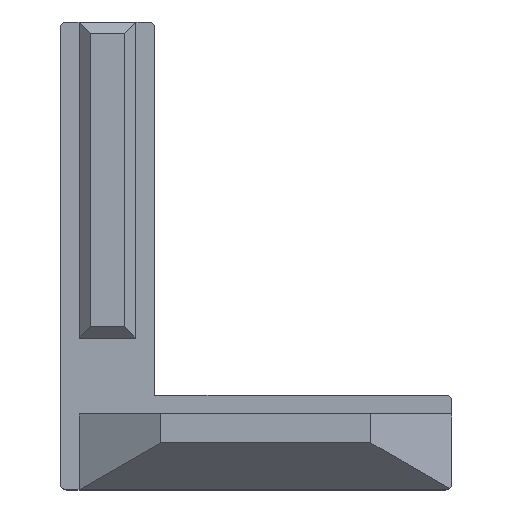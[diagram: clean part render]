
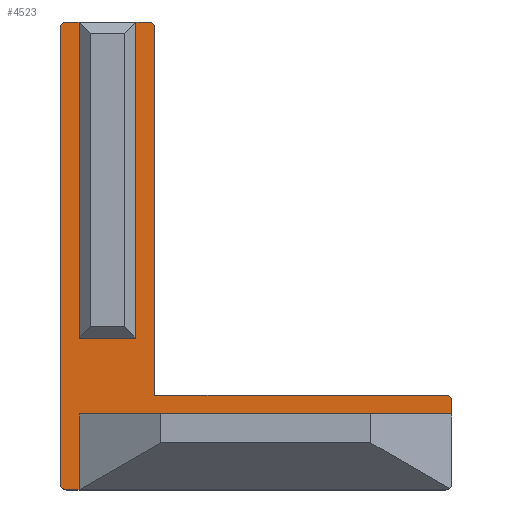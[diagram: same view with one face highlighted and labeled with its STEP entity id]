
A CAD part, top view. The second image highlights one B-rep face of the part: STEP entity #4523.
In plain terms, the highlighted planar face has unit normal (0, 0, 1).
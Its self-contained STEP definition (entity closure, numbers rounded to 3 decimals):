
#30 = LINE ( 'NONE', #4631, #2470 ) ;
#51 = CARTESIAN_POINT ( 'NONE',  ( 1.5, 37., 3.8 ) ) ;
#98 = DIRECTION ( 'NONE',  ( 1., 0., 0. ) ) ;
#119 = DIRECTION ( 'NONE',  ( 1., 0., 0. ) ) ;
#136 = AXIS2_PLACEMENT_3D ( 'NONE', #348, #4941, #4416 ) ;
#138 = DIRECTION ( 'NONE',  ( 0., 1., 0. ) ) ;
#182 = CARTESIAN_POINT ( 'NONE',  ( 1.5, 6., 3.8 ) ) ;
#188 = CARTESIAN_POINT ( 'NONE',  ( 7.5, 36.5, 3.8 ) ) ;
#210 = DIRECTION ( 'NONE',  ( 0., 0., 1. ) ) ;
#220 = CARTESIAN_POINT ( 'NONE',  ( 0.5, 0.5, 3.8 ) ) ;
#267 = VECTOR ( 'NONE', #523, 1000. ) ;
#335 = EDGE_CURVE ( 'NONE', #2882, #4441, #1620, .T. ) ;
#338 = EDGE_CURVE ( 'NONE', #3330, #1079, #5108, .T. ) ;
#348 = CARTESIAN_POINT ( 'NONE',  ( 0.5, 36.5, 3.8 ) ) ;
#375 = CIRCLE ( 'NONE', #136, 0.5 ) ;
#416 = CARTESIAN_POINT ( 'NONE',  ( 0., 36.5, 3.8 ) ) ;
#446 = CARTESIAN_POINT ( 'NONE',  ( 1.5, 12., 3.8 ) ) ;
#517 = CARTESIAN_POINT ( 'NONE',  ( 0., 37., 3.8 ) ) ;
#523 = DIRECTION ( 'NONE',  ( 0., 1., 0. ) ) ;
#540 = VECTOR ( 'NONE', #4077, 1000. ) ;
#546 = VECTOR ( 'NONE', #884, 1000. ) ;
#568 = CARTESIAN_POINT ( 'NONE',  ( 7., 36.5, 3.8 ) ) ;
#588 = VECTOR ( 'NONE', #5103, 1000. ) ;
#598 = DIRECTION ( 'NONE',  ( -1., 0., 0. ) ) ;
#605 = ORIENTED_EDGE ( 'NONE', *, *, #2642, .T. ) ;
#614 = AXIS2_PLACEMENT_3D ( 'NONE', #1179, #638, #98 ) ;
#619 = CARTESIAN_POINT ( 'NONE',  ( 31., 7., 3.8 ) ) ;
#638 = DIRECTION ( 'NONE',  ( 0., 0., 1. ) ) ;
#642 = VECTOR ( 'NONE', #2724, 1000. ) ;
#659 = CARTESIAN_POINT ( 'NONE',  ( 0., 0., 3.8 ) ) ;
#675 = CARTESIAN_POINT ( 'NONE',  ( 31., 0., 3.8 ) ) ;
#718 = CARTESIAN_POINT ( 'NONE',  ( 6., 37., 3.8 ) ) ;
#750 = CARTESIAN_POINT ( 'NONE',  ( 0., 0., 3.8 ) ) ;
#754 = ORIENTED_EDGE ( 'NONE', *, *, #338, .T. ) ;
#765 = VECTOR ( 'NONE', #119, 1000. ) ;
#882 = VERTEX_POINT ( 'NONE', #3279 ) ;
#884 = DIRECTION ( 'NONE',  ( -1., 0., 0. ) ) ;
#894 = EDGE_CURVE ( 'NONE', #3662, #2488, #1874, .T. ) ;
#974 = EDGE_CURVE ( 'NONE', #3682, #4441, #1060, .T. ) ;
#995 = EDGE_CURVE ( 'NONE', #4656, #5033, #1218, .T. ) ;
#1014 = CARTESIAN_POINT ( 'NONE',  ( 7., 37., 3.8 ) ) ;
#1028 = EDGE_CURVE ( 'NONE', #4414, #882, #30, .T. ) ;
#1044 = EDGE_CURVE ( 'NONE', #1079, #3682, #3439, .T. ) ;
#1045 = VERTEX_POINT ( 'NONE', #446 ) ;
#1060 = LINE ( 'NONE', #517, #588 ) ;
#1067 = CARTESIAN_POINT ( 'NONE',  ( 6., 37., 3.8 ) ) ;
#1079 = VERTEX_POINT ( 'NONE', #188 ) ;
#1118 = EDGE_CURVE ( 'NONE', #2693, #1225, #3250, .T. ) ;
#1140 = CARTESIAN_POINT ( 'NONE',  ( 0., 37., 3.8 ) ) ;
#1179 = CARTESIAN_POINT ( 'NONE',  ( 30.5, 7., 3.8 ) ) ;
#1180 = VECTOR ( 'NONE', #3799, 1000. ) ;
#1203 = LINE ( 'NONE', #659, #765 ) ;
#1218 = LINE ( 'NONE', #675, #1553 ) ;
#1225 = VERTEX_POINT ( 'NONE', #4969 ) ;
#1353 = CARTESIAN_POINT ( 'NONE',  ( 0.5, 0., 3.8 ) ) ;
#1360 = ORIENTED_EDGE ( 'NONE', *, *, #974, .T. ) ;
#1435 = CARTESIAN_POINT ( 'NONE',  ( 31., 7.5, 3.8 ) ) ;
#1537 = DIRECTION ( 'NONE',  ( 1., 0., 0. ) ) ;
#1553 = VECTOR ( 'NONE', #138, 1000. ) ;
#1563 = CARTESIAN_POINT ( 'NONE',  ( 0., 0.5, 3.8 ) ) ;
#1602 = CARTESIAN_POINT ( 'NONE',  ( 30.5, 7.5, 3.8 ) ) ;
#1620 = LINE ( 'NONE', #1067, #267 ) ;
#1740 = EDGE_CURVE ( 'NONE', #2488, #882, #1203, .T. ) ;
#1813 = ORIENTED_EDGE ( 'NONE', *, *, #2581, .T. ) ;
#1841 = PLANE ( 'NONE',  #3911 ) ;
#1867 = CARTESIAN_POINT ( 'NONE',  ( 31., 6., 3.8 ) ) ;
#1874 = CIRCLE ( 'NONE', #2568, 0.5 ) ;
#2064 = DIRECTION ( 'NONE',  ( 0., 0., 1. ) ) ;
#2085 = ORIENTED_EDGE ( 'NONE', *, *, #3700, .T. ) ;
#2113 = ORIENTED_EDGE ( 'NONE', *, *, #3033, .F. ) ;
#2124 = CARTESIAN_POINT ( 'NONE',  ( 1.5, 37., 3.8 ) ) ;
#2199 = LINE ( 'NONE', #51, #3404 ) ;
#2238 = DIRECTION ( 'NONE',  ( 1., 0., 0. ) ) ;
#2358 = ORIENTED_EDGE ( 'NONE', *, *, #995, .T. ) ;
#2470 = VECTOR ( 'NONE', #4123, 1000. ) ;
#2478 = LINE ( 'NONE', #1435, #546 ) ;
#2484 = FACE_OUTER_BOUND ( 'NONE', #4792, .T. ) ;
#2488 = VERTEX_POINT ( 'NONE', #1353 ) ;
#2568 = AXIS2_PLACEMENT_3D ( 'NONE', #220, #2753, #2238 ) ;
#2581 = EDGE_CURVE ( 'NONE', #4242, #3662, #5068, .T. ) ;
#2642 = EDGE_CURVE ( 'NONE', #5033, #3224, #4672, .T. ) ;
#2669 = CARTESIAN_POINT ( 'NONE',  ( 6., 12., 3.8 ) ) ;
#2693 = VERTEX_POINT ( 'NONE', #2124 ) ;
#2724 = DIRECTION ( 'NONE',  ( -1., 0., 0. ) ) ;
#2728 = AXIS2_PLACEMENT_3D ( 'NONE', #568, #2064, #1537 ) ;
#2753 = DIRECTION ( 'NONE',  ( 0., 0., 1. ) ) ;
#2882 = VERTEX_POINT ( 'NONE', #2669 ) ;
#3033 = EDGE_CURVE ( 'NONE', #4656, #4414, #4273, .T. ) ;
#3060 = ORIENTED_EDGE ( 'NONE', *, *, #4488, .F. ) ;
#3181 = ORIENTED_EDGE ( 'NONE', *, *, #1028, .F. ) ;
#3192 = CARTESIAN_POINT ( 'NONE',  ( 7.5, 7.5, 3.8 ) ) ;
#3224 = VERTEX_POINT ( 'NONE', #1602 ) ;
#3250 = LINE ( 'NONE', #1140, #4675 ) ;
#3254 = CARTESIAN_POINT ( 'NONE',  ( 31., 6., 3.8 ) ) ;
#3279 = CARTESIAN_POINT ( 'NONE',  ( 1.5, 0., 3.8 ) ) ;
#3330 = VERTEX_POINT ( 'NONE', #3192 ) ;
#3404 = VECTOR ( 'NONE', #4653, 1000. ) ;
#3439 = CIRCLE ( 'NONE', #2728, 0.5 ) ;
#3662 = VERTEX_POINT ( 'NONE', #1563 ) ;
#3682 = VERTEX_POINT ( 'NONE', #1014 ) ;
#3700 = EDGE_CURVE ( 'NONE', #3224, #3330, #2478, .T. ) ;
#3708 = EDGE_CURVE ( 'NONE', #1225, #4242, #375, .T. ) ;
#3759 = ORIENTED_EDGE ( 'NONE', *, *, #1044, .T. ) ;
#3799 = DIRECTION ( 'NONE',  ( 1., 0., 0. ) ) ;
#3910 = ORIENTED_EDGE ( 'NONE', *, *, #894, .T. ) ;
#3911 = AXIS2_PLACEMENT_3D ( 'NONE', #750, #210, #4806 ) ;
#4035 = DIRECTION ( 'NONE',  ( 0., -1., 0. ) ) ;
#4077 = DIRECTION ( 'NONE',  ( 0., 1., 0. ) ) ;
#4123 = DIRECTION ( 'NONE',  ( 0., -1., 0. ) ) ;
#4174 = ORIENTED_EDGE ( 'NONE', *, *, #3708, .T. ) ;
#4242 = VERTEX_POINT ( 'NONE', #416 ) ;
#4267 = ORIENTED_EDGE ( 'NONE', *, *, #335, .F. ) ;
#4273 = LINE ( 'NONE', #3254, #642 ) ;
#4312 = CARTESIAN_POINT ( 'NONE',  ( 6., 12., 3.8 ) ) ;
#4361 = ORIENTED_EDGE ( 'NONE', *, *, #4673, .F. ) ;
#4414 = VERTEX_POINT ( 'NONE', #182 ) ;
#4416 = DIRECTION ( 'NONE',  ( 1., 0., 0. ) ) ;
#4441 = VERTEX_POINT ( 'NONE', #718 ) ;
#4443 = ORIENTED_EDGE ( 'NONE', *, *, #1740, .T. ) ;
#4488 = EDGE_CURVE ( 'NONE', #2693, #1045, #2199, .T. ) ;
#4523 = ADVANCED_FACE ( 'NONE', ( #2484 ), #1841, .T. ) ;
#4547 = CARTESIAN_POINT ( 'NONE',  ( 0., 0., 3.8 ) ) ;
#4591 = CARTESIAN_POINT ( 'NONE',  ( 7.5, 7.5, 3.8 ) ) ;
#4616 = VECTOR ( 'NONE', #4035, 1000. ) ;
#4631 = CARTESIAN_POINT ( 'NONE',  ( 1.5, 6., 3.8 ) ) ;
#4653 = DIRECTION ( 'NONE',  ( 0., -1., 0. ) ) ;
#4656 = VERTEX_POINT ( 'NONE', #1867 ) ;
#4672 = CIRCLE ( 'NONE', #614, 0.5 ) ;
#4673 = EDGE_CURVE ( 'NONE', #1045, #2882, #4830, .T. ) ;
#4675 = VECTOR ( 'NONE', #598, 1000. ) ;
#4792 = EDGE_LOOP ( 'NONE', ( #1813, #3910, #4443, #3181, #2113, #2358, #605, #2085, #754, #3759, #1360, #4267, #4361, #3060, #4998, #4174 ) ) ;
#4806 = DIRECTION ( 'NONE',  ( 1., 0., 0. ) ) ;
#4830 = LINE ( 'NONE', #4312, #1180 ) ;
#4941 = DIRECTION ( 'NONE',  ( 0., 0., 1. ) ) ;
#4969 = CARTESIAN_POINT ( 'NONE',  ( 0.5, 37., 3.8 ) ) ;
#4998 = ORIENTED_EDGE ( 'NONE', *, *, #1118, .T. ) ;
#5033 = VERTEX_POINT ( 'NONE', #619 ) ;
#5068 = LINE ( 'NONE', #4547, #4616 ) ;
#5103 = DIRECTION ( 'NONE',  ( -1., 0., 0. ) ) ;
#5108 = LINE ( 'NONE', #4591, #540 ) ;
